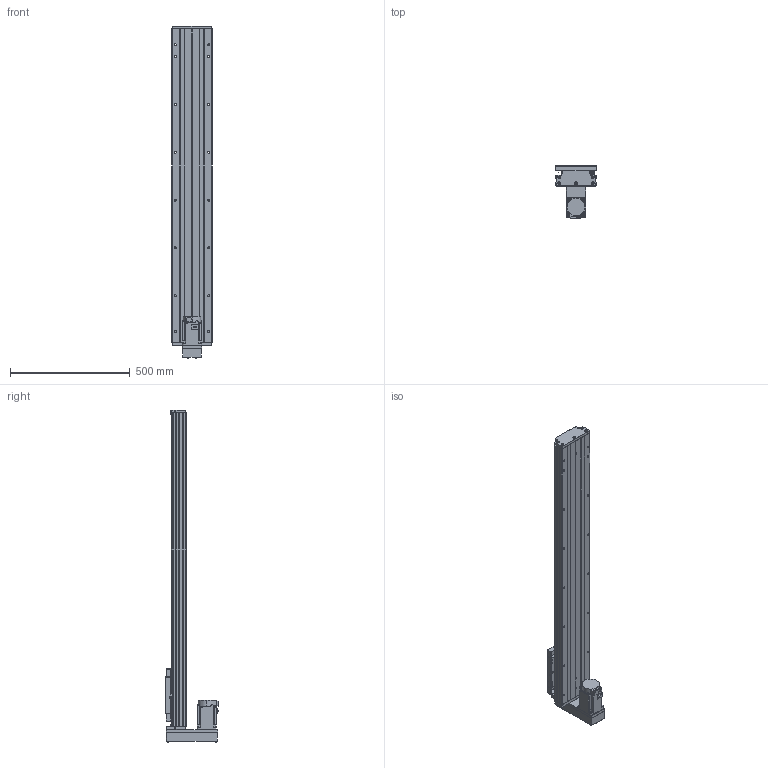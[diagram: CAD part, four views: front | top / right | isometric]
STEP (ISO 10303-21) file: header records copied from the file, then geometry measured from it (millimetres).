
FILE_DESCRIPTION (( 'STEP AP203' ), '1' );
FILE_NAME ('GTH17-1050-BM-M75-C4.step', '2023-06-30T12:37:51', ( '微软用户' ), ( '微软中国' ), 'SwSTEP 2.0', 'SolidWorks 2020', '' );
FILE_SCHEMA (( 'CONFIG_CONTROL_DESIGN' ));
Length unit declared in the file: millimetre
Products named in the file (19): GB1155-6X6; GTH17-031; GTH17-1050-BM-M75-C4; CTHA60-017; GBT 70.2-M3¡Á5_M3¡Á6; EE_SX911P_R; す晦芛蹟隊 M3℅5; GTH17-001_1050; CTHA60-016; HG-KN73J-S100; GTH17-002_GTH17-002; GBT 70.1-M3℅5; GBT 70.2-M4¡Á45_M4¡Á35; GTH17-004; GBT77-2000 M3×3; GTH17-015-2_CTHA86-015-2; GTH17-005; GBT 70.1-M6¡Á20_M6¡Á20; GTH17-033
Assembly tree (58 placements, depth 2):
  GTH17-1050-BM-M75-C4
    GTH17-001_1050
    GTH17-002_GTH17-002
    GTH17-004
    GTH17-005
    GB1155-6X6  x2
    CTHA60-017  x3
    EE_SX911P_R  x3
    CTHA60-016  x2
    GBT 70.1-M3℅5  x6
    GBT77-2000 M3×3  x6
    GBT 70.1-M6¡Á20_M6¡Á20  x10
    GTH17-031
    GBT 70.2-M3¡Á5_M3¡Á6  x8
    す晦芛蹟隊 M3℅5  x6
    HG-KN73J-S100
    GBT 70.2-M4¡Á45_M4¡Á35  x4
    GTH17-015-2_CTHA86-015-2
    GTH17-033
Bounding box: 171 x 222.3 x 1388.2 mm (x, y, z)
Volume: 11287556.4 mm3; surface area: 1504216.4 mm2
Topology: 61 solids, 61 shells, 2469 faces, 5893 edges, 3651 vertices
Faces by surface type: plane 1314, cylinder 682, cone 297, torus 124, sphere 32, bspline 20
Entity records: 45354 total; most frequent: CARTESIAN_POINT 10466, DIRECTION 6601, ORIENTED_EDGE 6498, EDGE_CURVE 3249, AXIS2_PLACEMENT_3D 2264, LINE 2073, VECTOR 2073, VERTEX_POINT 2063
